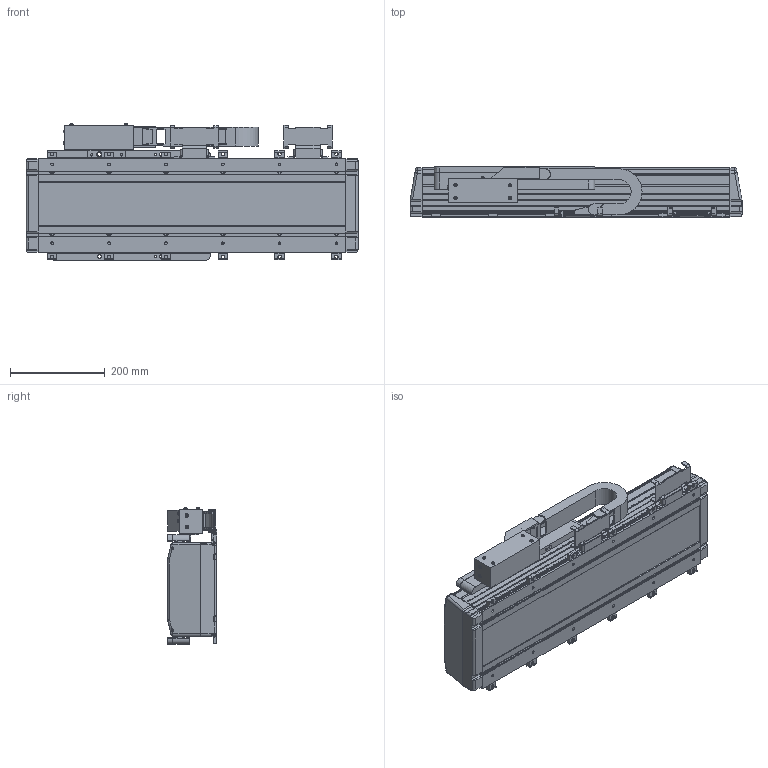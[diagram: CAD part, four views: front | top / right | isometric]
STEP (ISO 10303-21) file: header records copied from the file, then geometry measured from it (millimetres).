
FILE_DESCRIPTION((''),'2;1');
FILE_NAME('MPAS-B8026F-ALMS2C_ASM','2007-08-01T',('jayapriya'),(''),'PRO/ENGINEER BY PARAMETRIC TECHNOLOGY CORPORATION, 2006200','PRO/ENGINEER BY PARAMETRIC TECHNOLOGY CORPORATION, 2006200','');
FILE_SCHEMA(('CONFIG_CONTROL_DESIGN'));
Length unit declared in the file: millimetre
Products named in the file (11): PART-1_200_701; PART-2_200; PART-3_200; PART-4_200_SEALED; PART-5_200; PART-6_200_701; PART-7_200; PART-8_701; PART-9_200; PART-10_200; MPAS-B8026F-ALMS2C_ASM
Assembly tree (32 placements, depth 2):
  MPAS-B8026F-ALMS2C_ASM
    PART-1_200_701
    PART-2_200
    PART-3_200
    PART-4_200_SEALED
    PART-5_200
    PART-6_200_701
    PART-7_200
    PART-8_701
    PART-9_200  x12
    PART-10_200  x12
Bounding box: 701 x 105.4 x 288.9 mm (x, y, z)
Volume: 9143550.5 mm3; surface area: 1603858.1 mm2
Topology: 32 solids, 46 shells, 1452 faces, 3909 edges, 2566 vertices
Faces by surface type: plane 905, cylinder 508, bspline 26, sphere 8, cone 4, extrusion 1
Entity records: 39065 total; most frequent: CARTESIAN_POINT 7990, ORIENTED_EDGE 6494, DIRECTION 6426, EDGE_CURVE 3249, VECTOR 2242, LINE 2241, VERTEX_POINT 2126, AXIS2_PLACEMENT_3D 2092
